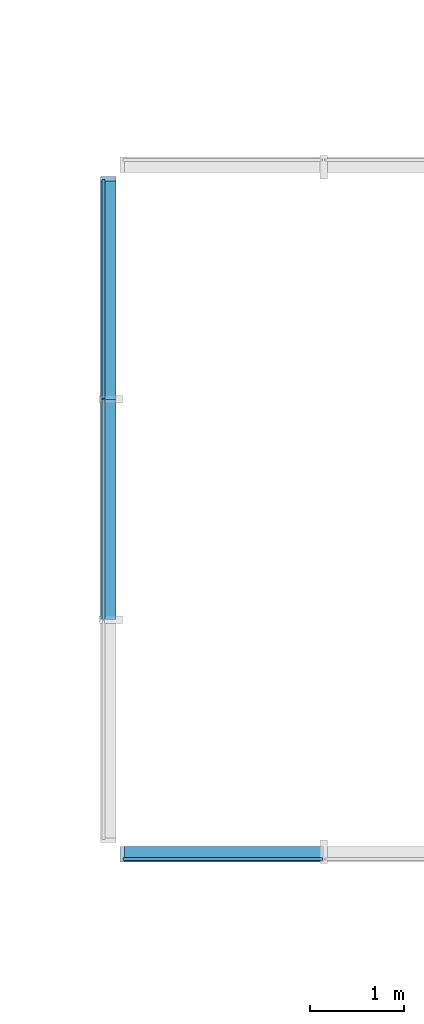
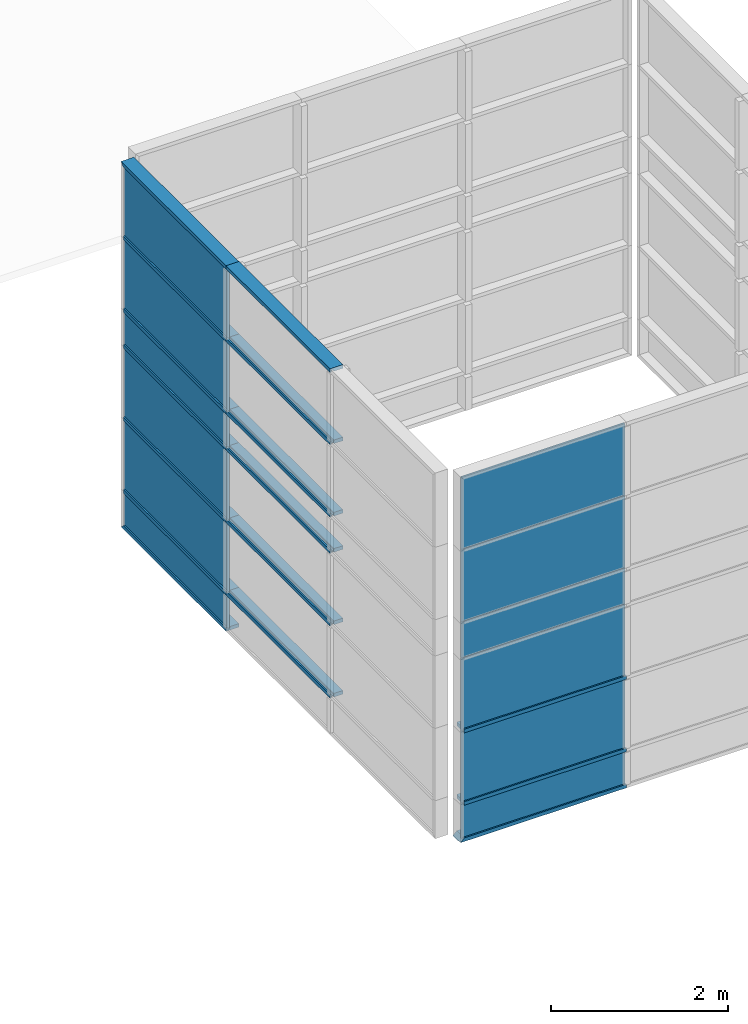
# One storey, part 5 of 19: 28 building element parts, 2 elements without a shape of their own.
"""IFC4 building model written with IfcOpenShell, lengths in millimetres."""

from ifc_helpers import new_model, entity, si_unit, converted_unit, derived_unit, direction, frame, origin_with_axes, place, context, subcontext, project, spatial, triangles, material, element, aggregate, save


model = new_model("IFC4")

# Units and contexts
model_context = context("Model", 3, precision=1e-05, world=origin_with_axes(), true_north=direction((0.0, 1.0)))
body_context = subcontext(model_context, "Body", "Model", "MODEL_VIEW")
ifc_project = project(units=[si_unit("LENGTHUNIT", "METRE", prefix="MILLI"), si_unit("AREAUNIT", "SQUARE_METRE"), si_unit("VOLUMEUNIT", "CUBIC_METRE"), converted_unit("PLANEANGLEUNIT", "DEGREE", entity("IfcLengthMeasure", 0.017453), si_unit("PLANEANGLEUNIT", "RADIAN"), dimensions=[0, 0, 0, 0, 0, 0, 0]), si_unit("SOLIDANGLEUNIT", "STERADIAN"), si_unit("MASSUNIT", "GRAM"), si_unit("TIMEUNIT", "SECOND"), si_unit("THERMODYNAMICTEMPERATUREUNIT", "DEGREE_CELSIUS"), si_unit("LUMINOUSINTENSITYUNIT", "LUMEN"), si_unit("POWERUNIT", "WATT"), derived_unit("THERMALTRANSMITTANCEUNIT", [(si_unit("POWERUNIT", "WATT"), 1), (si_unit("THERMODYNAMICTEMPERATUREUNIT", "KELVIN"), -1), (si_unit("AREAUNIT", "SQUARE_METRE"), -1)])], contexts=[model_context])

# Site, building, storey
site_placement = place(None, origin_with_axes())
site = spatial("IfcSite", under=ifc_project, at=site_placement, Name="Default Site", CompositionType="ELEMENT")
building_placement = place(site_placement, origin_with_axes())
building = spatial("IfcBuilding", under=site, at=building_placement, Name="Default Building", CompositionType="ELEMENT")
storey_placement = place(building_placement, frame((0.0, 0.0, 3000.0), z_axis=(0.0, 0.0, 1.0), x_axis=(1.0, 0.0, 0.0)))
storey = spatial("IfcBuildingStorey", under=building, at=storey_placement, Name="EG - Story", CompositionType="ELEMENT", Elevation=3000.0)

# Curtain wall, building element parts
curtain_wall_1_placement = place(storey_placement, origin_with_axes())
curtain_wall_1 = element("IfcCurtainWall", 1, at=curtain_wall_1_placement, inside=storey, Name="Fassade-011", PredefinedType="NOTDEFINED")
ifc_material_1 = material(Name="Normalglas")
building_element_part_1_placement = place(curtain_wall_1_placement, frame((69381.391327, -43896.324358, 0.0), z_axis=(0.0, 0.0, 1.0), x_axis=(1.0, 0.0, 0.0)))
building_element_part_1 = element("IfcBuildingElementPart", 2, at=building_element_part_1_placement, material=ifc_material_1, Name="Normalglas", PredefinedType="NOTDEFINED", context=body_context, shape_type="Tessellation", body=[
    triangles([(15.0, -1165.324, 495.0), (15.0, 1170.325, 495.0), (-14.999, 1170.325, 495.0), (-14.999, -1165.324, 495.0), (15.0, -1165.324, 5.0), (15.0, 1170.325, 5.0), (-14.999, 1170.325, 5.0), (-14.999, -1165.324, 5.0)], [[1, 2, 3], [1, 3, 4], [1, 5, 6], [1, 6, 2], [2, 6, 7], [2, 7, 3], [4, 3, 7], [4, 7, 8], [5, 1, 4], [5, 4, 8], [6, 5, 8], [6, 8, 7]], closed=False),
])
building_element_part_2_placement = place(curtain_wall_1_placement, frame((69381.391327, -43896.324358, 0.0), z_axis=(0.0, 0.0, 1.0), x_axis=(1.0, 0.0, 0.0)))
building_element_part_2 = element("IfcBuildingElementPart", 3, at=building_element_part_2_placement, material=ifc_material_1, Name="Normalglas", PredefinedType="NOTDEFINED", context=body_context, shape_type="Tessellation", body=[
    triangles([(15.0, -1165.324, 1495.0), (15.0, 1170.325, 1495.0), (-14.999, 1170.325, 1495.0), (-14.999, -1165.324, 1495.0), (15.0, -1165.324, 505.0), (15.0, 1170.325, 505.0), (-14.999, 1170.325, 505.0), (-14.999, -1165.324, 505.0)], [[1, 2, 3], [1, 3, 4], [1, 5, 6], [1, 6, 2], [2, 6, 7], [2, 7, 3], [4, 3, 7], [4, 7, 8], [5, 1, 4], [5, 4, 8], [6, 5, 8], [6, 8, 7]], closed=False),
])
building_element_part_3_placement = place(curtain_wall_1_placement, frame((69381.391327, -43896.324358, 0.0), z_axis=(0.0, 0.0, 1.0), x_axis=(1.0, 0.0, 0.0)))
building_element_part_3 = element("IfcBuildingElementPart", 4, at=building_element_part_3_placement, material=ifc_material_1, Name="Normalglas", PredefinedType="NOTDEFINED", context=body_context, shape_type="Tessellation", body=[
    triangles([(15.0, -1165.324, 2495.0), (15.0, 1170.325, 2495.0), (-14.999, 1170.325, 2495.0), (-14.999, -1165.324, 2495.0), (15.0, -1165.324, 1505.0), (15.0, 1170.325, 1505.0), (-14.999, 1170.325, 1505.0), (-14.999, -1165.324, 1505.0)], [[1, 2, 3], [1, 3, 4], [1, 5, 6], [1, 6, 2], [2, 6, 7], [2, 7, 3], [4, 3, 7], [4, 7, 8], [5, 1, 4], [5, 4, 8], [6, 5, 8], [6, 8, 7]], closed=False),
])
building_element_part_4_placement = place(curtain_wall_1_placement, frame((69381.391327, -43896.324358, 0.0), z_axis=(0.0, 0.0, 1.0), x_axis=(1.0, 0.0, 0.0)))
building_element_part_4 = element("IfcBuildingElementPart", 5, at=building_element_part_4_placement, material=ifc_material_1, Name="Normalglas", PredefinedType="NOTDEFINED", context=body_context, shape_type="Tessellation", body=[
    triangles([(15.0, -1165.324, 2995.0), (15.0, 1170.325, 2995.0), (-14.999, 1170.325, 2995.0), (-14.999, -1165.324, 2995.0), (15.0, -1165.324, 2505.0), (15.0, 1170.325, 2505.0), (-14.999, 1170.325, 2505.0), (-14.999, -1165.324, 2505.0)], [[1, 2, 3], [1, 3, 4], [1, 5, 6], [1, 6, 2], [2, 6, 7], [2, 7, 3], [4, 3, 7], [4, 7, 8], [5, 1, 4], [5, 4, 8], [6, 5, 8], [6, 8, 7]], closed=False),
])
building_element_part_5_placement = place(curtain_wall_1_placement, frame((69381.391327, -43896.324358, 0.0), z_axis=(0.0, 0.0, 1.0), x_axis=(1.0, 0.0, 0.0)))
building_element_part_5 = element("IfcBuildingElementPart", 6, at=building_element_part_5_placement, material=ifc_material_1, Name="Normalglas", PredefinedType="NOTDEFINED", context=body_context, shape_type="Tessellation", body=[
    triangles([(15.0, -1165.324, 3995.0), (15.0, 1170.325, 3995.0), (-14.999, 1170.325, 3995.0), (-14.999, -1165.324, 3995.0), (15.0, -1165.324, 3005.0), (15.0, 1170.325, 3005.0), (-14.999, 1170.325, 3005.0), (-14.999, -1165.324, 3005.0)], [[1, 2, 3], [1, 3, 4], [1, 5, 6], [1, 6, 2], [2, 6, 7], [2, 7, 3], [4, 3, 7], [4, 7, 8], [5, 1, 4], [5, 4, 8], [6, 5, 8], [6, 8, 7]], closed=False),
])
building_element_part_6_placement = place(curtain_wall_1_placement, frame((69381.391327, -43896.324358, 0.0), z_axis=(0.0, 0.0, 1.0), x_axis=(1.0, 0.0, 0.0)))
building_element_part_6 = element("IfcBuildingElementPart", 7, at=building_element_part_6_placement, material=ifc_material_1, Name="Normalglas", PredefinedType="NOTDEFINED", context=body_context, shape_type="Tessellation", body=[
    triangles([(15.0, -1165.324, 4995.0), (15.0, 1170.325, 4995.0), (-14.999, 1170.325, 4995.0), (-14.999, -1165.324, 4995.0), (15.0, -1165.324, 4005.0), (15.0, 1170.325, 4005.0), (-14.999, 1170.325, 4005.0), (-14.999, -1165.324, 4005.0)], [[1, 2, 3], [1, 3, 4], [1, 5, 6], [1, 6, 2], [2, 6, 7], [2, 7, 3], [4, 3, 7], [4, 7, 8], [5, 1, 4], [5, 4, 8], [6, 5, 8], [6, 8, 7]], closed=False),
])
ifc_material_2 = material(Name="Blech")
building_element_part_7_placement = place(curtain_wall_1_placement, frame((69381.391327, -43896.324358, 0.0), z_axis=(0.0, 0.0, 1.0), x_axis=(1.0, 0.0, 0.0)))
building_element_part_7 = element("IfcBuildingElementPart", 8, at=building_element_part_7_placement, material=ifc_material_2, Name="Blech", PredefinedType="NOTDEFINED", context=body_context, shape_type="Tessellation", body=[
    triangles([(-14.999, -1175.324, 5.0), (15.0, -1175.324, 5.0), (133.0, -1175.324, -24.999), (-34.999, -1175.324, -24.999), (-34.999, -1175.324, 25.0), (-14.999, -1175.324, 25.0), (133.0, -1175.324, 25.0), (15.0, -1175.324, 25.0), (15.0, 1170.325, 5.0), (-14.999, 1170.325, 5.0), (-14.999, 1150.325, 25.0), (-34.999, 1150.325, 25.0), (-34.999, 1200.325, -24.999), (133.0, 1200.325, -24.999), (133.0, 1150.325, 25.0), (15.0, 1150.325, 25.0)], [[1, 2, 3], [1, 3, 4], [1, 4, 5], [1, 5, 6], [7, 3, 2], [7, 2, 8], [1, 2, 9], [1, 9, 10], [11, 6, 1], [11, 1, 10], [6, 11, 12], [6, 12, 5], [4, 5, 12], [4, 12, 13], [3, 4, 13], [3, 13, 14], [7, 3, 14], [7, 14, 15], [16, 8, 7], [16, 7, 15], [2, 8, 16], [2, 16, 9], [16, 15, 9], [9, 15, 14], [9, 14, 10], [10, 14, 13], [10, 13, 12], [10, 12, 11]], closed=False),
])
building_element_part_8_placement = place(curtain_wall_1_placement, frame((69381.391327, -43896.324358, 0.0), z_axis=(0.0, 0.0, 1.0), x_axis=(1.0, 0.0, 0.0)))
building_element_part_8 = element("IfcBuildingElementPart", 9, at=building_element_part_8_placement, material=ifc_material_2, Name="Blech", PredefinedType="NOTDEFINED", context=body_context, shape_type="Tessellation", body=[
    triangles([(-14.999, -1175.324, 525.0), (-34.999, -1175.324, 525.0), (-14.999, -1175.324, 505.0), (-14.999, -1175.324, 495.0), (15.0, -1175.324, 505.0), (133.0, -1175.324, 525.0), (15.0, -1175.324, 525.0), (-34.999, -1175.324, 475.0), (-14.999, -1175.324, 475.0), (15.0, -1175.324, 495.0), (15.0, -1175.324, 475.0), (133.0, -1175.324, 475.0), (15.0, 1150.325, 495.0), (15.0, 1150.325, 475.0), (133.0, 1150.325, 475.0), (133.0, 1150.325, 525.0), (15.0, 1150.325, 525.0), (15.0, 1150.325, 505.0), (-14.999, 1150.325, 505.0), (-14.999, 1150.325, 525.0), (-34.999, 1150.325, 525.0), (-34.999, 1150.325, 475.0), (-14.999, 1150.325, 475.0), (-14.999, 1150.325, 495.0)], [[1, 2, 3], [3, 2, 4], [3, 4, 5], [5, 4, 6], [5, 6, 7], [8, 9, 4], [8, 4, 2], [6, 4, 10], [6, 10, 11], [6, 11, 12], [11, 10, 13], [11, 13, 14], [11, 14, 15], [11, 15, 12], [12, 15, 16], [12, 16, 6], [7, 6, 16], [7, 16, 17], [7, 17, 18], [7, 18, 5], [5, 18, 19], [5, 19, 3], [1, 3, 19], [1, 19, 20], [20, 21, 2], [20, 2, 1], [2, 21, 22], [2, 22, 8], [23, 9, 8], [23, 8, 22], [4, 9, 23], [4, 23, 24], [10, 4, 24], [10, 24, 13], [17, 16, 18], [18, 16, 13], [18, 13, 19], [19, 13, 24], [19, 24, 21], [21, 24, 23], [21, 23, 22], [15, 14, 13], [15, 13, 16], [19, 21, 20]], closed=False),
])
building_element_part_9_placement = place(curtain_wall_1_placement, frame((69381.391327, -43896.324358, 0.0), z_axis=(0.0, 0.0, 1.0), x_axis=(1.0, 0.0, 0.0)))
building_element_part_9 = element("IfcBuildingElementPart", 10, at=building_element_part_9_placement, material=ifc_material_2, Name="Blech", PredefinedType="NOTDEFINED", context=body_context, shape_type="Tessellation", body=[
    triangles([(-14.999, -3525.973, 525.0), (-34.999, -3525.973, 525.0), (-14.999, -3525.973, 505.0), (-14.999, -3525.973, 495.0), (15.0, -3525.973, 505.0), (133.0, -3525.973, 525.0), (15.0, -3525.973, 525.0), (-34.999, -3525.973, 475.0), (-14.999, -3525.973, 475.0), (15.0, -3525.973, 495.0), (15.0, -3525.973, 475.0), (133.0, -3525.973, 475.0), (15.0, -1175.324, 495.0), (15.0, -1175.324, 475.0), (133.0, -1175.324, 475.0), (133.0, -1175.324, 525.0), (15.0, -1175.324, 525.0), (15.0, -1175.324, 505.0), (-14.999, -1175.324, 505.0), (-14.999, -1175.324, 525.0), (-34.999, -1175.324, 525.0), (-34.999, -1175.324, 475.0), (-14.999, -1175.324, 475.0), (-14.999, -1175.324, 495.0)], [[1, 2, 3], [3, 2, 4], [3, 4, 5], [5, 4, 6], [5, 6, 7], [8, 9, 4], [8, 4, 2], [6, 4, 10], [6, 10, 11], [6, 11, 12], [11, 10, 13], [11, 13, 14], [11, 14, 15], [11, 15, 12], [6, 12, 15], [6, 15, 16], [7, 6, 16], [7, 16, 17], [7, 17, 18], [7, 18, 5], [5, 18, 19], [5, 19, 3], [1, 3, 19], [1, 19, 20], [20, 21, 2], [20, 2, 1], [8, 2, 21], [8, 21, 22], [23, 9, 8], [23, 8, 22], [4, 9, 23], [4, 23, 24], [10, 4, 24], [10, 24, 13], [17, 16, 18], [18, 16, 13], [18, 13, 19], [19, 13, 24], [19, 24, 21], [21, 24, 23], [21, 23, 22], [15, 14, 13], [15, 13, 16], [19, 21, 20]], closed=False),
])
building_element_part_10_placement = place(curtain_wall_1_placement, frame((69381.391327, -43896.324358, 0.0), z_axis=(0.0, 0.0, 1.0), x_axis=(1.0, 0.0, 0.0)))
building_element_part_10 = element("IfcBuildingElementPart", 11, at=building_element_part_10_placement, material=ifc_material_2, Name="Blech", PredefinedType="NOTDEFINED", context=body_context, shape_type="Tessellation", body=[
    triangles([(-14.999, -1175.324, 1525.0), (-34.999, -1175.324, 1525.0), (-14.999, -1175.324, 1505.0), (-14.999, -1175.324, 1495.0), (15.0, -1175.324, 1505.0), (133.0, -1175.324, 1525.0), (15.0, -1175.324, 1525.0), (-34.999, -1175.324, 1475.0), (-14.999, -1175.324, 1475.0), (15.0, -1175.324, 1495.0), (15.0, -1175.324, 1475.0), (133.0, -1175.324, 1475.0), (15.0, 1150.325, 1495.0), (15.0, 1150.325, 1475.0), (133.0, 1150.325, 1475.0), (133.0, 1150.325, 1525.0), (15.0, 1150.325, 1525.0), (15.0, 1150.325, 1505.0), (-14.999, 1150.325, 1505.0), (-14.999, 1150.325, 1525.0), (-34.999, 1150.325, 1525.0), (-34.999, 1150.325, 1475.0), (-14.999, 1150.325, 1475.0), (-14.999, 1150.325, 1495.0)], [[1, 2, 3], [3, 2, 4], [3, 4, 5], [5, 4, 6], [5, 6, 7], [8, 9, 4], [8, 4, 2], [6, 4, 10], [6, 10, 11], [6, 11, 12], [11, 10, 13], [11, 13, 14], [11, 14, 15], [11, 15, 12], [12, 15, 16], [12, 16, 6], [7, 6, 16], [7, 16, 17], [7, 17, 18], [7, 18, 5], [5, 18, 19], [5, 19, 3], [1, 3, 19], [1, 19, 20], [20, 21, 2], [20, 2, 1], [2, 21, 22], [2, 22, 8], [23, 9, 8], [23, 8, 22], [4, 9, 23], [4, 23, 24], [10, 4, 24], [10, 24, 13], [17, 16, 18], [18, 16, 13], [18, 13, 19], [19, 13, 24], [19, 24, 21], [21, 24, 23], [21, 23, 22], [15, 14, 13], [15, 13, 16], [19, 21, 20]], closed=False),
])
building_element_part_11_placement = place(curtain_wall_1_placement, frame((69381.391327, -43896.324358, 0.0), z_axis=(0.0, 0.0, 1.0), x_axis=(1.0, 0.0, 0.0)))
building_element_part_11 = element("IfcBuildingElementPart", 12, at=building_element_part_11_placement, material=ifc_material_2, Name="Blech", PredefinedType="NOTDEFINED", context=body_context, shape_type="Tessellation", body=[
    triangles([(-14.999, -3525.973, 1525.0), (-34.999, -3525.973, 1525.0), (-14.999, -3525.973, 1505.0), (-14.999, -3525.973, 1495.0), (15.0, -3525.973, 1505.0), (133.0, -3525.973, 1525.0), (15.0, -3525.973, 1525.0), (-34.999, -3525.973, 1475.0), (-14.999, -3525.973, 1475.0), (15.0, -3525.973, 1495.0), (15.0, -3525.973, 1475.0), (133.0, -3525.973, 1475.0), (15.0, -1175.324, 1495.0), (15.0, -1175.324, 1475.0), (133.0, -1175.324, 1475.0), (133.0, -1175.324, 1525.0), (15.0, -1175.324, 1525.0), (15.0, -1175.324, 1505.0), (-14.999, -1175.324, 1505.0), (-14.999, -1175.324, 1525.0), (-34.999, -1175.324, 1525.0), (-34.999, -1175.324, 1475.0), (-14.999, -1175.324, 1475.0), (-14.999, -1175.324, 1495.0)], [[1, 2, 3], [3, 2, 4], [3, 4, 5], [5, 4, 6], [5, 6, 7], [8, 9, 4], [8, 4, 2], [6, 4, 10], [6, 10, 11], [6, 11, 12], [11, 10, 13], [11, 13, 14], [11, 14, 15], [11, 15, 12], [6, 12, 15], [6, 15, 16], [7, 6, 16], [7, 16, 17], [7, 17, 18], [7, 18, 5], [5, 18, 19], [5, 19, 3], [1, 3, 19], [1, 19, 20], [20, 21, 2], [20, 2, 1], [8, 2, 21], [8, 21, 22], [23, 9, 8], [23, 8, 22], [4, 9, 23], [4, 23, 24], [10, 4, 24], [10, 24, 13], [17, 16, 18], [18, 16, 13], [18, 13, 19], [19, 13, 24], [19, 24, 21], [21, 24, 23], [21, 23, 22], [15, 14, 13], [15, 13, 16], [19, 21, 20]], closed=False),
])
building_element_part_12_placement = place(curtain_wall_1_placement, frame((69381.391327, -43896.324358, 0.0), z_axis=(0.0, 0.0, 1.0), x_axis=(1.0, 0.0, 0.0)))
building_element_part_12 = element("IfcBuildingElementPart", 13, at=building_element_part_12_placement, material=ifc_material_2, Name="Blech", PredefinedType="NOTDEFINED", context=body_context, shape_type="Tessellation", body=[
    triangles([(-14.999, -1175.324, 2525.0), (-34.999, -1175.324, 2525.0), (-14.999, -1175.324, 2505.0), (-14.999, -1175.324, 2495.0), (15.0, -1175.324, 2505.0), (133.0, -1175.324, 2525.0), (15.0, -1175.324, 2525.0), (-34.999, -1175.324, 2475.0), (-14.999, -1175.324, 2475.0), (15.0, -1175.324, 2495.0), (15.0, -1175.324, 2475.0), (133.0, -1175.324, 2475.0), (15.0, 1150.325, 2495.0), (15.0, 1150.325, 2475.0), (133.0, 1150.325, 2475.0), (133.0, 1150.325, 2525.0), (15.0, 1150.325, 2525.0), (15.0, 1150.325, 2505.0), (-14.999, 1150.325, 2505.0), (-14.999, 1150.325, 2525.0), (-34.999, 1150.325, 2525.0), (-34.999, 1150.325, 2475.0), (-14.999, 1150.325, 2475.0), (-14.999, 1150.325, 2495.0)], [[1, 2, 3], [3, 2, 4], [3, 4, 5], [5, 4, 6], [5, 6, 7], [8, 9, 4], [8, 4, 2], [6, 4, 10], [6, 10, 11], [6, 11, 12], [11, 10, 13], [11, 13, 14], [11, 14, 15], [11, 15, 12], [12, 15, 16], [12, 16, 6], [7, 6, 16], [7, 16, 17], [7, 17, 18], [7, 18, 5], [5, 18, 19], [5, 19, 3], [1, 3, 19], [1, 19, 20], [20, 21, 2], [20, 2, 1], [2, 21, 22], [2, 22, 8], [23, 9, 8], [23, 8, 22], [4, 9, 23], [4, 23, 24], [10, 4, 24], [10, 24, 13], [17, 16, 18], [18, 16, 13], [18, 13, 19], [19, 13, 24], [19, 24, 21], [21, 24, 23], [21, 23, 22], [15, 14, 13], [15, 13, 16], [19, 21, 20]], closed=False),
])
building_element_part_13_placement = place(curtain_wall_1_placement, frame((69381.391327, -43896.324358, 0.0), z_axis=(0.0, 0.0, 1.0), x_axis=(1.0, 0.0, 0.0)))
building_element_part_13 = element("IfcBuildingElementPart", 14, at=building_element_part_13_placement, material=ifc_material_2, Name="Blech", PredefinedType="NOTDEFINED", context=body_context, shape_type="Tessellation", body=[
    triangles([(-14.999, -3525.973, 2525.0), (-34.999, -3525.973, 2525.0), (-14.999, -3525.973, 2505.0), (-14.999, -3525.973, 2495.0), (15.0, -3525.973, 2505.0), (133.0, -3525.973, 2525.0), (15.0, -3525.973, 2525.0), (-34.999, -3525.973, 2475.0), (-14.999, -3525.973, 2475.0), (15.0, -3525.973, 2495.0), (15.0, -3525.973, 2475.0), (133.0, -3525.973, 2475.0), (15.0, -1175.324, 2495.0), (15.0, -1175.324, 2475.0), (133.0, -1175.324, 2475.0), (133.0, -1175.324, 2525.0), (15.0, -1175.324, 2525.0), (15.0, -1175.324, 2505.0), (-14.999, -1175.324, 2505.0), (-14.999, -1175.324, 2525.0), (-34.999, -1175.324, 2525.0), (-34.999, -1175.324, 2475.0), (-14.999, -1175.324, 2475.0), (-14.999, -1175.324, 2495.0)], [[1, 2, 3], [3, 2, 4], [3, 4, 5], [5, 4, 6], [5, 6, 7], [8, 9, 4], [8, 4, 2], [6, 4, 10], [6, 10, 11], [6, 11, 12], [11, 10, 13], [11, 13, 14], [11, 14, 15], [11, 15, 12], [6, 12, 15], [6, 15, 16], [7, 6, 16], [7, 16, 17], [7, 17, 18], [7, 18, 5], [5, 18, 19], [5, 19, 3], [1, 3, 19], [1, 19, 20], [20, 21, 2], [20, 2, 1], [8, 2, 21], [8, 21, 22], [23, 9, 8], [23, 8, 22], [4, 9, 23], [4, 23, 24], [10, 4, 24], [10, 24, 13], [17, 16, 18], [18, 16, 13], [18, 13, 19], [19, 13, 24], [19, 24, 21], [21, 24, 23], [21, 23, 22], [15, 14, 13], [15, 13, 16], [19, 21, 20]], closed=False),
])
building_element_part_14_placement = place(curtain_wall_1_placement, frame((69381.391327, -43896.324358, 0.0), z_axis=(0.0, 0.0, 1.0), x_axis=(1.0, 0.0, 0.0)))
building_element_part_14 = element("IfcBuildingElementPart", 15, at=building_element_part_14_placement, material=ifc_material_2, Name="Blech", PredefinedType="NOTDEFINED", context=body_context, shape_type="Tessellation", body=[
    triangles([(-14.999, -1175.324, 3025.0), (-34.999, -1175.324, 3025.0), (-14.999, -1175.324, 3005.0), (-14.999, -1175.324, 2995.0), (15.0, -1175.324, 3005.0), (133.0, -1175.324, 3025.0), (15.0, -1175.324, 3025.0), (-34.999, -1175.324, 2975.0), (-14.999, -1175.324, 2975.0), (15.0, -1175.324, 2995.0), (15.0, -1175.324, 2975.0), (133.0, -1175.324, 2975.0), (15.0, 1150.325, 2995.0), (15.0, 1150.325, 2975.0), (133.0, 1150.325, 2975.0), (133.0, 1150.325, 3025.0), (15.0, 1150.325, 3025.0), (15.0, 1150.325, 3005.0), (-14.999, 1150.325, 3005.0), (-14.999, 1150.325, 3025.0), (-34.999, 1150.325, 3025.0), (-34.999, 1150.325, 2975.0), (-14.999, 1150.325, 2975.0), (-14.999, 1150.325, 2995.0)], [[1, 2, 3], [3, 2, 4], [3, 4, 5], [5, 4, 6], [5, 6, 7], [8, 9, 4], [8, 4, 2], [6, 4, 10], [6, 10, 11], [6, 11, 12], [11, 10, 13], [11, 13, 14], [11, 14, 15], [11, 15, 12], [12, 15, 16], [12, 16, 6], [7, 6, 16], [7, 16, 17], [7, 17, 18], [7, 18, 5], [5, 18, 19], [5, 19, 3], [1, 3, 19], [1, 19, 20], [20, 21, 2], [20, 2, 1], [2, 21, 22], [2, 22, 8], [23, 9, 8], [23, 8, 22], [4, 9, 23], [4, 23, 24], [10, 4, 24], [10, 24, 13], [17, 16, 18], [18, 16, 13], [18, 13, 19], [19, 13, 24], [19, 24, 21], [21, 24, 23], [21, 23, 22], [15, 14, 13], [15, 13, 16], [19, 21, 20]], closed=False),
])
building_element_part_15_placement = place(curtain_wall_1_placement, frame((69381.391327, -43896.324358, 0.0), z_axis=(0.0, 0.0, 1.0), x_axis=(1.0, 0.0, 0.0)))
building_element_part_15 = element("IfcBuildingElementPart", 16, at=building_element_part_15_placement, material=ifc_material_2, Name="Blech", PredefinedType="NOTDEFINED", context=body_context, shape_type="Tessellation", body=[
    triangles([(-14.999, -3525.973, 3025.0), (-34.999, -3525.973, 3025.0), (-14.999, -3525.973, 3005.0), (-14.999, -3525.973, 2995.0), (15.0, -3525.973, 3005.0), (133.0, -3525.973, 3025.0), (15.0, -3525.973, 3025.0), (-34.999, -3525.973, 2975.0), (-14.999, -3525.973, 2975.0), (15.0, -3525.973, 2995.0), (15.0, -3525.973, 2975.0), (133.0, -3525.973, 2975.0), (15.0, -1175.324, 2995.0), (15.0, -1175.324, 2975.0), (133.0, -1175.324, 2975.0), (133.0, -1175.324, 3025.0), (15.0, -1175.324, 3025.0), (15.0, -1175.324, 3005.0), (-14.999, -1175.324, 3005.0), (-14.999, -1175.324, 3025.0), (-34.999, -1175.324, 3025.0), (-34.999, -1175.324, 2975.0), (-14.999, -1175.324, 2975.0), (-14.999, -1175.324, 2995.0)], [[1, 2, 3], [3, 2, 4], [3, 4, 5], [5, 4, 6], [5, 6, 7], [8, 9, 4], [8, 4, 2], [6, 4, 10], [6, 10, 11], [6, 11, 12], [11, 10, 13], [11, 13, 14], [11, 14, 15], [11, 15, 12], [6, 12, 15], [6, 15, 16], [7, 6, 16], [7, 16, 17], [7, 17, 18], [7, 18, 5], [5, 18, 19], [5, 19, 3], [1, 3, 19], [1, 19, 20], [20, 21, 2], [20, 2, 1], [8, 2, 21], [8, 21, 22], [23, 9, 8], [23, 8, 22], [4, 9, 23], [4, 23, 24], [10, 4, 24], [10, 24, 13], [17, 16, 18], [18, 16, 13], [18, 13, 19], [19, 13, 24], [19, 24, 21], [21, 24, 23], [21, 23, 22], [15, 14, 13], [15, 13, 16], [19, 21, 20]], closed=False),
])
building_element_part_16_placement = place(curtain_wall_1_placement, frame((69381.391327, -43896.324358, 0.0), z_axis=(0.0, 0.0, 1.0), x_axis=(1.0, 0.0, 0.0)))
building_element_part_16 = element("IfcBuildingElementPart", 17, at=building_element_part_16_placement, material=ifc_material_2, Name="Blech", PredefinedType="NOTDEFINED", context=body_context, shape_type="Tessellation", body=[
    triangles([(-14.999, -1175.324, 4025.0), (-34.999, -1175.324, 4025.0), (-14.999, -1175.324, 4005.0), (-14.999, -1175.324, 3995.0), (15.0, -1175.324, 4005.0), (133.0, -1175.324, 4025.0), (15.0, -1175.324, 4025.0), (-34.999, -1175.324, 3975.0), (-14.999, -1175.324, 3975.0), (15.0, -1175.324, 3995.0), (15.0, -1175.324, 3975.0), (133.0, -1175.324, 3975.0), (15.0, 1150.325, 3995.0), (15.0, 1150.325, 3975.0), (133.0, 1150.325, 3975.0), (133.0, 1150.325, 4025.0), (15.0, 1150.325, 4025.0), (15.0, 1150.325, 4005.0), (-14.999, 1150.325, 4005.0), (-14.999, 1150.325, 4025.0), (-34.999, 1150.325, 4025.0), (-34.999, 1150.325, 3975.0), (-14.999, 1150.325, 3975.0), (-14.999, 1150.325, 3995.0)], [[1, 2, 3], [3, 2, 4], [3, 4, 5], [5, 4, 6], [5, 6, 7], [8, 9, 4], [8, 4, 2], [6, 4, 10], [6, 10, 11], [6, 11, 12], [11, 10, 13], [11, 13, 14], [11, 14, 15], [11, 15, 12], [12, 15, 16], [12, 16, 6], [7, 6, 16], [7, 16, 17], [7, 17, 18], [7, 18, 5], [5, 18, 19], [5, 19, 3], [1, 3, 19], [1, 19, 20], [20, 21, 2], [20, 2, 1], [2, 21, 22], [2, 22, 8], [23, 9, 8], [23, 8, 22], [4, 9, 23], [4, 23, 24], [10, 4, 24], [10, 24, 13], [17, 16, 18], [18, 16, 13], [18, 13, 19], [19, 13, 24], [19, 24, 21], [21, 24, 23], [21, 23, 22], [15, 14, 13], [15, 13, 16], [19, 21, 20]], closed=False),
])
building_element_part_17_placement = place(curtain_wall_1_placement, frame((69381.391327, -43896.324358, 0.0), z_axis=(0.0, 0.0, 1.0), x_axis=(1.0, 0.0, 0.0)))
building_element_part_17 = element("IfcBuildingElementPart", 18, at=building_element_part_17_placement, material=ifc_material_2, Name="Blech", PredefinedType="NOTDEFINED", context=body_context, shape_type="Tessellation", body=[
    triangles([(-14.999, -1175.324, 4995.0), (15.0, -1175.324, 4995.0), (133.0, -1175.324, 5025.0), (-34.999, -1175.324, 5025.0), (-34.999, -1175.324, 4975.0), (-14.999, -1175.324, 4975.0), (15.0, -1175.324, 4975.0), (133.0, -1175.324, 4975.0), (15.0, 1170.325, 4995.0), (15.0, 1150.325, 4975.0), (133.0, 1150.325, 4975.0), (133.0, 1200.325, 5025.0), (-34.999, 1200.325, 5025.0), (-34.999, 1150.325, 4975.0), (-14.999, 1150.325, 4975.0), (-14.999, 1170.325, 4995.0)], [[1, 2, 3], [1, 3, 4], [1, 4, 5], [1, 5, 6], [7, 8, 3], [7, 3, 2], [2, 9, 10], [2, 10, 7], [10, 11, 8], [10, 8, 7], [8, 11, 12], [8, 12, 3], [3, 12, 13], [3, 13, 4], [4, 13, 14], [4, 14, 5], [6, 5, 14], [6, 14, 15], [15, 16, 1], [15, 1, 6], [1, 16, 9], [1, 9, 2], [16, 9, 12], [16, 12, 13], [16, 13, 14], [16, 14, 15], [10, 11, 12], [10, 12, 9]], closed=False),
])
building_element_part_18_placement = place(curtain_wall_1_placement, frame((69381.391327, -43896.324358, 0.0), z_axis=(0.0, 0.0, 1.0), x_axis=(1.0, 0.0, 0.0)))
building_element_part_18 = element("IfcBuildingElementPart", 19, at=building_element_part_18_placement, material=ifc_material_2, Name="Blech", PredefinedType="NOTDEFINED", context=body_context, shape_type="Tessellation", body=[
    triangles([(-14.999, -3525.973, 4025.0), (-34.999, -3525.973, 4025.0), (-14.999, -3525.973, 4005.0), (-14.999, -3525.973, 3995.0), (15.0, -3525.973, 4005.0), (133.0, -3525.973, 4025.0), (15.0, -3525.973, 4025.0), (-34.999, -3525.973, 3975.0), (-14.999, -3525.973, 3975.0), (15.0, -3525.973, 3995.0), (15.0, -3525.973, 3975.0), (133.0, -3525.973, 3975.0), (15.0, -1175.324, 3995.0), (15.0, -1175.324, 3975.0), (133.0, -1175.324, 3975.0), (133.0, -1175.324, 4025.0), (15.0, -1175.324, 4025.0), (15.0, -1175.324, 4005.0), (-14.999, -1175.324, 4005.0), (-14.999, -1175.324, 4025.0), (-34.999, -1175.324, 4025.0), (-34.999, -1175.324, 3975.0), (-14.999, -1175.324, 3975.0), (-14.999, -1175.324, 3995.0)], [[1, 2, 3], [3, 2, 4], [3, 4, 5], [5, 4, 6], [5, 6, 7], [8, 9, 4], [8, 4, 2], [6, 4, 10], [6, 10, 11], [6, 11, 12], [11, 10, 13], [11, 13, 14], [11, 14, 15], [11, 15, 12], [6, 12, 15], [6, 15, 16], [7, 6, 16], [7, 16, 17], [7, 17, 18], [7, 18, 5], [5, 18, 19], [5, 19, 3], [1, 3, 19], [1, 19, 20], [20, 21, 2], [20, 2, 1], [8, 2, 21], [8, 21, 22], [23, 9, 8], [23, 8, 22], [4, 9, 23], [4, 23, 24], [10, 4, 24], [10, 24, 13], [17, 16, 18], [18, 16, 13], [18, 13, 19], [19, 13, 24], [19, 24, 21], [21, 24, 23], [21, 23, 22], [15, 14, 13], [15, 13, 16], [19, 21, 20]], closed=False),
])
building_element_part_19_placement = place(curtain_wall_1_placement, frame((69381.391327, -43896.324358, 0.0), z_axis=(0.0, 0.0, 1.0), x_axis=(1.0, 0.0, 0.0)))
building_element_part_19 = element("IfcBuildingElementPart", 20, at=building_element_part_19_placement, material=ifc_material_2, Name="Blech", PredefinedType="NOTDEFINED", context=body_context, shape_type="Tessellation", body=[
    triangles([(-14.999, -3525.973, 4995.0), (15.0, -3525.973, 4995.0), (133.0, -3525.973, 5025.0), (-34.999, -3525.973, 5025.0), (-34.999, -3525.973, 4975.0), (-14.999, -3525.973, 4975.0), (15.0, -3525.973, 4975.0), (133.0, -3525.973, 4975.0), (15.0, -1175.324, 4995.0), (15.0, -1175.324, 4975.0), (133.0, -1175.324, 4975.0), (133.0, -1175.324, 5025.0), (-34.999, -1175.324, 5025.0), (-34.999, -1175.324, 4975.0), (-14.999, -1175.324, 4975.0), (-14.999, -1175.324, 4995.0)], [[1, 2, 3], [1, 3, 4], [1, 4, 5], [1, 5, 6], [7, 8, 3], [7, 3, 2], [2, 9, 10], [2, 10, 7], [10, 11, 8], [10, 8, 7], [11, 12, 3], [11, 3, 8], [12, 13, 4], [12, 4, 3], [13, 14, 5], [13, 5, 4], [6, 5, 14], [6, 14, 15], [15, 16, 1], [15, 1, 6], [1, 16, 9], [1, 9, 2], [16, 9, 12], [16, 12, 13], [16, 13, 14], [16, 14, 15], [10, 11, 12], [10, 12, 9]], closed=False),
])
aggregate(curtain_wall_1, [building_element_part_1, building_element_part_2, building_element_part_3, building_element_part_4, building_element_part_5, building_element_part_6, building_element_part_7, building_element_part_8, building_element_part_9, building_element_part_10, building_element_part_11, building_element_part_12, building_element_part_13, building_element_part_14, building_element_part_15, building_element_part_16, building_element_part_17, building_element_part_18, building_element_part_19])

curtain_wall_2_placement = place(storey_placement, origin_with_axes())
curtain_wall_2 = element("IfcCurtainWall", 21, at=curtain_wall_2_placement, inside=storey, Name="Fassade-010", PredefinedType="NOTDEFINED")
building_element_part_20_placement = place(curtain_wall_2_placement, frame((70654.39916, -49972.947966, -4.5e-05), z_axis=(0.0, 0.0, 1.0), x_axis=(1.0, 0.0, 0.0)))
building_element_part_20 = element("IfcBuildingElementPart", 22, at=building_element_part_20_placement, material=ifc_material_1, Name="Normalglas", PredefinedType="NOTDEFINED", context=body_context, shape_type="Tessellation", body=[
    triangles([(1063.008, 15.0, 495.0), (-1068.007, 15.0, 495.0), (-1068.007, -14.999, 495.0), (1063.008, -14.999, 495.0), (1063.008, 15.0, 5.0), (-1068.007, 15.0, 5.0), (-1068.007, -14.999, 5.0), (1063.008, -14.999, 5.0)], [[1, 2, 3], [1, 3, 4], [1, 5, 6], [1, 6, 2], [2, 6, 7], [2, 7, 3], [4, 3, 7], [4, 7, 8], [5, 1, 4], [5, 4, 8], [6, 5, 8], [6, 8, 7]], closed=False),
])
building_element_part_21_placement = place(curtain_wall_2_placement, frame((70654.39916, -49972.947966, -4.5e-05), z_axis=(0.0, 0.0, 1.0), x_axis=(1.0, 0.0, 0.0)))
building_element_part_21 = element("IfcBuildingElementPart", 23, at=building_element_part_21_placement, material=ifc_material_1, Name="Normalglas", PredefinedType="NOTDEFINED", context=body_context, shape_type="Tessellation", body=[
    triangles([(1063.008, 15.0, 1495.0), (-1068.007, 15.0, 1495.0), (-1068.007, -14.999, 1495.0), (1063.008, -14.999, 1495.0), (1063.008, 15.0, 505.0), (-1068.007, 15.0, 505.0), (-1068.007, -14.999, 505.0), (1063.008, -14.999, 505.0)], [[1, 2, 3], [1, 3, 4], [1, 5, 6], [1, 6, 2], [2, 6, 7], [2, 7, 3], [4, 3, 7], [4, 7, 8], [5, 1, 4], [5, 4, 8], [6, 5, 8], [6, 8, 7]], closed=False),
])
building_element_part_22_placement = place(curtain_wall_2_placement, frame((70654.39916, -49972.947966, -4.5e-05), z_axis=(0.0, 0.0, 1.0), x_axis=(1.0, 0.0, 0.0)))
building_element_part_22 = element("IfcBuildingElementPart", 24, at=building_element_part_22_placement, material=ifc_material_1, Name="Normalglas", PredefinedType="NOTDEFINED", context=body_context, shape_type="Tessellation", body=[
    triangles([(1063.008, 15.0, 2495.0), (-1068.007, 15.0, 2495.0), (-1068.007, -14.999, 2495.0), (1063.008, -14.999, 2495.0), (1063.008, 15.0, 1505.0), (-1068.007, 15.0, 1505.0), (-1068.007, -14.999, 1505.0), (1063.008, -14.999, 1505.0)], [[1, 2, 3], [1, 3, 4], [1, 5, 6], [1, 6, 2], [2, 6, 7], [2, 7, 3], [4, 3, 7], [4, 7, 8], [5, 1, 4], [5, 4, 8], [6, 5, 8], [6, 8, 7]], closed=False),
])
building_element_part_23_placement = place(curtain_wall_2_placement, frame((70654.39916, -49972.947966, -4.5e-05), z_axis=(0.0, 0.0, 1.0), x_axis=(1.0, 0.0, 0.0)))
building_element_part_23 = element("IfcBuildingElementPart", 25, at=building_element_part_23_placement, material=ifc_material_1, Name="Normalglas", PredefinedType="NOTDEFINED", context=body_context, shape_type="Tessellation", body=[
    triangles([(1063.008, 15.0, 2995.0), (-1068.007, 15.0, 2995.0), (-1068.007, -14.999, 2995.0), (1063.008, -14.999, 2995.0), (1063.008, 15.0, 2505.0), (-1068.007, 15.0, 2505.0), (-1068.007, -14.999, 2505.0), (1063.008, -14.999, 2505.0)], [[1, 2, 3], [1, 3, 4], [1, 5, 6], [1, 6, 2], [2, 6, 7], [2, 7, 3], [4, 3, 7], [4, 7, 8], [5, 1, 4], [5, 4, 8], [6, 5, 8], [6, 8, 7]], closed=False),
])
building_element_part_24_placement = place(curtain_wall_2_placement, frame((70654.39916, -49972.947966, -4.5e-05), z_axis=(0.0, 0.0, 1.0), x_axis=(1.0, 0.0, 0.0)))
building_element_part_24 = element("IfcBuildingElementPart", 26, at=building_element_part_24_placement, material=ifc_material_1, Name="Normalglas", PredefinedType="NOTDEFINED", context=body_context, shape_type="Tessellation", body=[
    triangles([(1063.008, 15.0, 3995.0), (-1068.007, 15.0, 3995.0), (-1068.007, -14.999, 3995.0), (1063.008, -14.999, 3995.0), (1063.008, 15.0, 3005.0), (-1068.007, 15.0, 3005.0), (-1068.007, -14.999, 3005.0), (1063.008, -14.999, 3005.0)], [[1, 2, 3], [1, 3, 4], [1, 5, 6], [1, 6, 2], [2, 6, 7], [2, 7, 3], [4, 3, 7], [4, 7, 8], [5, 1, 4], [5, 4, 8], [6, 5, 8], [6, 8, 7]], closed=False),
])
building_element_part_25_placement = place(curtain_wall_2_placement, frame((70654.39916, -49972.947966, -4.5e-05), z_axis=(0.0, 0.0, 1.0), x_axis=(1.0, 0.0, 0.0)))
building_element_part_25 = element("IfcBuildingElementPart", 27, at=building_element_part_25_placement, material=ifc_material_1, Name="Normalglas", PredefinedType="NOTDEFINED", context=body_context, shape_type="Tessellation", body=[
    triangles([(1063.008, 15.0, 4995.0), (-1068.007, 15.0, 4995.0), (-1068.007, -14.999, 4995.0), (1063.008, -14.999, 4995.0), (1063.008, 15.0, 4005.0), (-1068.007, 15.0, 4005.0), (-1068.007, -14.999, 4005.0), (1063.008, -14.999, 4005.0)], [[1, 2, 3], [1, 3, 4], [1, 5, 6], [1, 6, 2], [2, 6, 7], [2, 7, 3], [4, 3, 7], [4, 7, 8], [5, 1, 4], [5, 4, 8], [6, 5, 8], [6, 8, 7]], closed=False),
])
building_element_part_26_placement = place(curtain_wall_2_placement, frame((70654.39916, -49972.947966, -4.5e-05), z_axis=(0.0, 0.0, 1.0), x_axis=(1.0, 0.0, 0.0)))
building_element_part_26 = element("IfcBuildingElementPart", 28, at=building_element_part_26_placement, material=ifc_material_2, Name="Blech", PredefinedType="NOTDEFINED", context=body_context, shape_type="Tessellation", body=[
    triangles([(1073.008, 15.0, 25.0), (1073.008, 133.0, 25.0), (1073.008, 15.0, 5.0), (1073.008, 133.0, -24.999), (1073.008, -14.999, 5.0), (1073.008, -34.999, -24.999), (1073.008, -14.999, 25.0), (1073.008, -34.999, 25.0), (-1068.007, 15.0, 5.0), (-1068.007, -14.999, 5.0), (-1048.007, -14.999, 25.0), (-1048.007, -34.999, 25.0), (-1098.007, -34.999, -24.999), (-1098.007, 133.0, -24.999), (-1048.007, 133.0, 25.0), (-1048.007, 15.0, 25.0)], [[1, 2, 3], [3, 2, 4], [3, 4, 5], [5, 4, 6], [5, 6, 7], [7, 6, 8], [5, 3, 9], [5, 9, 10], [11, 7, 5], [11, 5, 10], [7, 11, 12], [7, 12, 8], [6, 8, 12], [6, 12, 13], [4, 6, 13], [4, 13, 14], [2, 4, 14], [2, 14, 15], [16, 1, 2], [16, 2, 15], [3, 1, 16], [3, 16, 9], [16, 15, 9], [9, 15, 14], [9, 14, 10], [10, 14, 13], [10, 13, 12], [10, 12, 11]], closed=False),
])
building_element_part_27_placement = place(curtain_wall_2_placement, frame((70654.39916, -49972.947966, -4.5e-05), z_axis=(0.0, 0.0, 1.0), x_axis=(1.0, 0.0, 0.0)))
building_element_part_27 = element("IfcBuildingElementPart", 29, at=building_element_part_27_placement, material=ifc_material_2, Name="Blech", PredefinedType="NOTDEFINED", context=body_context, shape_type="Tessellation", body=[
    triangles([(1073.008, 133.0, 525.0), (1073.008, 15.0, 525.0), (1073.008, 133.0, 475.0), (1073.008, 15.0, 505.0), (1073.008, 15.0, 495.0), (1073.008, -14.999, 505.0), (1073.008, -14.999, 495.0), (1073.008, -14.999, 475.0), (1073.008, -14.999, 525.0), (1073.008, -34.999, 525.0), (1073.008, -34.999, 475.0), (1073.008, 15.0, 475.0), (-1048.007, 15.0, 495.0), (-1048.007, 15.0, 475.0), (-1048.007, 133.0, 475.0), (-1048.007, 133.0, 525.0), (-1048.007, 15.0, 525.0), (-1048.007, 15.0, 505.0), (-1048.007, -14.999, 505.0), (-1048.007, -14.999, 525.0), (-1048.007, -34.999, 525.0), (-1048.007, -34.999, 475.0), (-1048.007, -14.999, 475.0), (-1048.007, -14.999, 495.0)], [[1, 2, 3], [3, 2, 4], [3, 4, 5], [5, 4, 6], [5, 6, 7], [8, 9, 10], [8, 10, 11], [3, 5, 12], [12, 5, 13], [12, 13, 14], [12, 14, 15], [12, 15, 3], [3, 15, 16], [3, 16, 1], [2, 1, 16], [2, 16, 17], [2, 17, 18], [2, 18, 4], [4, 18, 19], [4, 19, 6], [9, 6, 19], [9, 19, 20], [20, 21, 10], [20, 10, 9], [10, 21, 22], [10, 22, 11], [23, 8, 11], [23, 11, 22], [7, 8, 23], [7, 23, 24], [5, 7, 24], [5, 24, 13], [15, 14, 16], [16, 14, 13], [16, 13, 18], [18, 13, 24], [18, 24, 19], [20, 23, 22], [20, 22, 21], [16, 18, 17]], closed=False),
])
building_element_part_28_placement = place(curtain_wall_2_placement, frame((70654.39916, -49972.947966, -4.5e-05), z_axis=(0.0, 0.0, 1.0), x_axis=(1.0, 0.0, 0.0)))
building_element_part_28 = element("IfcBuildingElementPart", 30, at=building_element_part_28_placement, material=ifc_material_2, Name="Blech", PredefinedType="NOTDEFINED", context=body_context, shape_type="Tessellation", body=[
    triangles([(1073.008, 133.0, 1525.0), (1073.008, 15.0, 1525.0), (1073.008, 133.0, 1475.0), (1073.008, 15.0, 1505.0), (1073.008, 15.0, 1495.0), (1073.008, -14.999, 1505.0), (1073.008, -14.999, 1495.0), (1073.008, -14.999, 1475.0), (1073.008, -14.999, 1525.0), (1073.008, -34.999, 1525.0), (1073.008, -34.999, 1475.0), (1073.008, 15.0, 1475.0), (-1048.007, 15.0, 1495.0), (-1048.007, 15.0, 1475.0), (-1048.007, 133.0, 1475.0), (-1048.007, 133.0, 1525.0), (-1048.007, 15.0, 1525.0), (-1048.007, 15.0, 1505.0), (-1048.007, -14.999, 1505.0), (-1048.007, -14.999, 1525.0), (-1048.007, -34.999, 1525.0), (-1048.007, -34.999, 1475.0), (-1048.007, -14.999, 1475.0), (-1048.007, -14.999, 1495.0)], [[1, 2, 3], [3, 2, 4], [3, 4, 5], [5, 4, 6], [5, 6, 7], [8, 9, 10], [8, 10, 11], [3, 5, 12], [12, 5, 13], [12, 13, 14], [12, 14, 15], [12, 15, 3], [3, 15, 16], [3, 16, 1], [2, 1, 16], [2, 16, 17], [2, 17, 18], [2, 18, 4], [4, 18, 19], [4, 19, 6], [9, 6, 19], [9, 19, 20], [20, 21, 10], [20, 10, 9], [10, 21, 22], [10, 22, 11], [23, 8, 11], [23, 11, 22], [7, 8, 23], [7, 23, 24], [5, 7, 24], [5, 24, 13], [15, 14, 16], [16, 14, 13], [16, 13, 18], [18, 13, 24], [18, 24, 19], [20, 23, 22], [20, 22, 21], [16, 18, 17]], closed=False),
])
aggregate(curtain_wall_2, [building_element_part_20, building_element_part_21, building_element_part_22, building_element_part_23, building_element_part_24, building_element_part_25, building_element_part_26, building_element_part_27, building_element_part_28])

save(model, "model.ifc")
